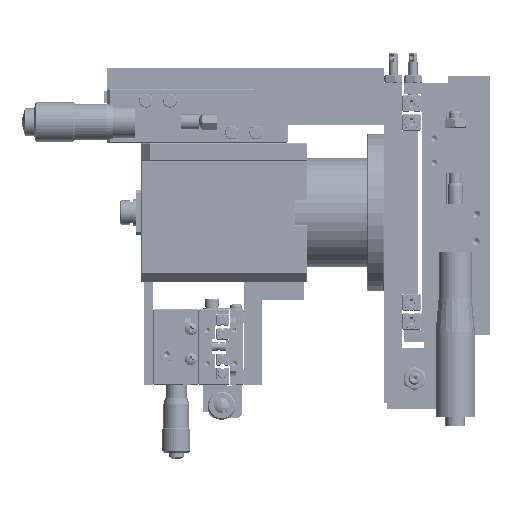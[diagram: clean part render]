
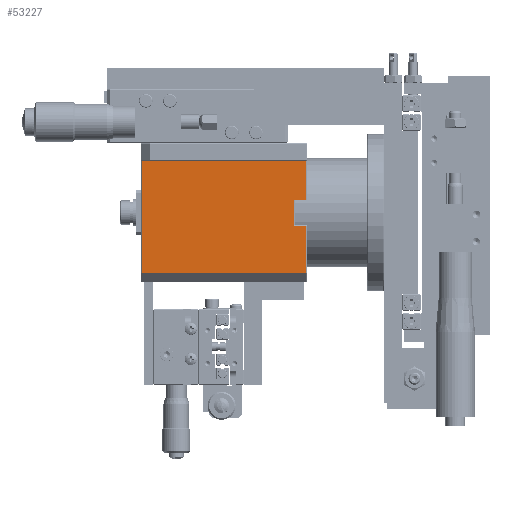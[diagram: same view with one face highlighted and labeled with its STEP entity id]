
A CAD part, left-side view. The second image highlights one B-rep face of the part: STEP entity #53227.
In plain terms, the highlighted planar face has unit normal (-1, 0, 0) as drawn and (1, 0, 0) by its records, which use the part's own axes.
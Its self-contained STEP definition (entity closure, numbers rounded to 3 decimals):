
#1428 = DIRECTION ( 'NONE',  ( 0., -1., 0. ) ) ;
#2439 = ORIENTED_EDGE ( 'NONE', *, *, #61376, .T. ) ;
#4147 = DIRECTION ( 'NONE',  ( 0., 0., -1. ) ) ;
#14770 = LINE ( 'NONE', #68303, #53477 ) ;
#14937 = CARTESIAN_POINT ( 'NONE',  ( 20., -27.2, 18.7 ) ) ;
#15610 = VECTOR ( 'NONE', #1428, 1000. ) ;
#18229 = EDGE_CURVE ( 'NONE', #68699, #75917, #69970, .T. ) ;
#19903 = EDGE_CURVE ( 'NONE', #45741, #23918, #59898, .T. ) ;
#20083 = CARTESIAN_POINT ( 'NONE',  ( 20., -27.2, 43. ) ) ;
#22060 = EDGE_CURVE ( 'NONE', #23918, #69300, #79581, .T. ) ;
#23738 = EDGE_LOOP ( 'NONE', ( #38756, #93936, #85491, #57536, #2439, #50449, #53252, #79176 ) ) ;
#23918 = VERTEX_POINT ( 'NONE', #64392 ) ;
#24612 = CARTESIAN_POINT ( 'NONE',  ( 20., -27.5, 27.3 ) ) ;
#27300 = LINE ( 'NONE', #89280, #85080 ) ;
#27303 = DIRECTION ( 'NONE',  ( 0., -1., 0. ) ) ;
#27888 = CARTESIAN_POINT ( 'NONE',  ( 20., -27.5, 46. ) ) ;
#28870 = DIRECTION ( 'NONE',  ( -1., 0., 0. ) ) ;
#29527 = CARTESIAN_POINT ( 'NONE',  ( 20., 27.2, 43. ) ) ;
#32481 = VERTEX_POINT ( 'NONE', #20083 ) ;
#34669 = CARTESIAN_POINT ( 'NONE',  ( 20., -23.2, 18.7 ) ) ;
#38345 = VECTOR ( 'NONE', #76853, 1000. ) ;
#38756 = ORIENTED_EDGE ( 'NONE', *, *, #18229, .T. ) ;
#45741 = VERTEX_POINT ( 'NONE', #74657 ) ;
#49068 = CARTESIAN_POINT ( 'NONE',  ( 20., 27.2, 46. ) ) ;
#50449 = ORIENTED_EDGE ( 'NONE', *, *, #86471, .T. ) ;
#53227 = ADVANCED_FACE ( 'NONE', ( #60405 ), #90374, .F. ) ;
#53252 = ORIENTED_EDGE ( 'NONE', *, *, #84615, .T. ) ;
#53477 = VECTOR ( 'NONE', #97834, 1000. ) ;
#55127 = DIRECTION ( 'NONE',  ( 0., 1., 0. ) ) ;
#57536 = ORIENTED_EDGE ( 'NONE', *, *, #22060, .T. ) ;
#57683 = VECTOR ( 'NONE', #55127, 1000. ) ;
#59898 = LINE ( 'NONE', #61359, #38345 ) ;
#60405 = FACE_OUTER_BOUND ( 'NONE', #23738, .T. ) ;
#61359 = CARTESIAN_POINT ( 'NONE',  ( 20., -27.5, 6. ) ) ;
#61376 = EDGE_CURVE ( 'NONE', #69300, #32481, #66302, .T. ) ;
#64392 = CARTESIAN_POINT ( 'NONE',  ( 20., 27.2, 6. ) ) ;
#65666 = VECTOR ( 'NONE', #88544, 1000. ) ;
#66299 = DIRECTION ( 'NONE',  ( 0., 0., -1. ) ) ;
#66302 = LINE ( 'NONE', #96807, #92323 ) ;
#67567 = AXIS2_PLACEMENT_3D ( 'NONE', #27888, #28870, #88886 ) ;
#68303 = CARTESIAN_POINT ( 'NONE',  ( 20., -23.2, 19. ) ) ;
#68699 = VERTEX_POINT ( 'NONE', #34669 ) ;
#69300 = VERTEX_POINT ( 'NONE', #29527 ) ;
#69970 = LINE ( 'NONE', #77009, #15610 ) ;
#71072 = EDGE_CURVE ( 'NONE', #90365, #68699, #14770, .T. ) ;
#73188 = LINE ( 'NONE', #73681, #81211 ) ;
#73681 = CARTESIAN_POINT ( 'NONE',  ( 20., -27.2, 46. ) ) ;
#74657 = CARTESIAN_POINT ( 'NONE',  ( 20., -27.2, 6. ) ) ;
#75917 = VERTEX_POINT ( 'NONE', #14937 ) ;
#76853 = DIRECTION ( 'NONE',  ( 0., 1., 0. ) ) ;
#77009 = CARTESIAN_POINT ( 'NONE',  ( 20., -27.5, 18.7 ) ) ;
#79176 = ORIENTED_EDGE ( 'NONE', *, *, #71072, .T. ) ;
#79581 = LINE ( 'NONE', #49068, #65666 ) ;
#81211 = VECTOR ( 'NONE', #4147, 1000. ) ;
#83139 = EDGE_CURVE ( 'NONE', #75917, #45741, #73188, .T. ) ;
#84615 = EDGE_CURVE ( 'NONE', #85027, #90365, #93135, .T. ) ;
#85027 = VERTEX_POINT ( 'NONE', #93018 ) ;
#85080 = VECTOR ( 'NONE', #66299, 1000. ) ;
#85491 = ORIENTED_EDGE ( 'NONE', *, *, #19903, .T. ) ;
#86471 = EDGE_CURVE ( 'NONE', #32481, #85027, #27300, .T. ) ;
#88544 = DIRECTION ( 'NONE',  ( 0., 0., 1. ) ) ;
#88886 = DIRECTION ( 'NONE',  ( 0., 0., 1. ) ) ;
#89280 = CARTESIAN_POINT ( 'NONE',  ( 20., -27.2, 46. ) ) ;
#90365 = VERTEX_POINT ( 'NONE', #95828 ) ;
#90374 = PLANE ( 'NONE',  #67567 ) ;
#92323 = VECTOR ( 'NONE', #27303, 1000. ) ;
#93018 = CARTESIAN_POINT ( 'NONE',  ( 20., -27.2, 27.3 ) ) ;
#93135 = LINE ( 'NONE', #24612, #57683 ) ;
#93936 = ORIENTED_EDGE ( 'NONE', *, *, #83139, .T. ) ;
#95828 = CARTESIAN_POINT ( 'NONE',  ( 20., -23.2, 27.3 ) ) ;
#96807 = CARTESIAN_POINT ( 'NONE',  ( 20., -27.5, 43. ) ) ;
#97834 = DIRECTION ( 'NONE',  ( 0., 0., -1. ) ) ;
